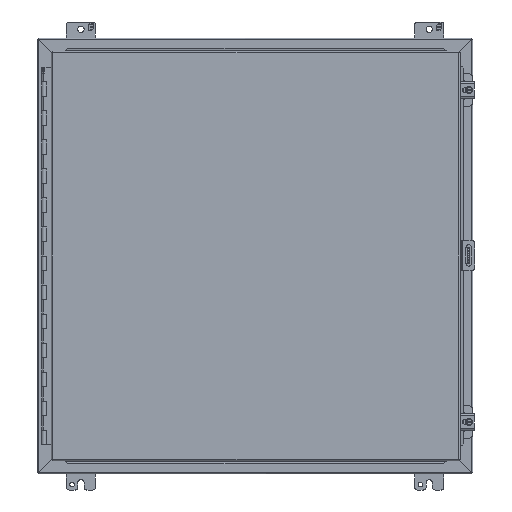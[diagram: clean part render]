
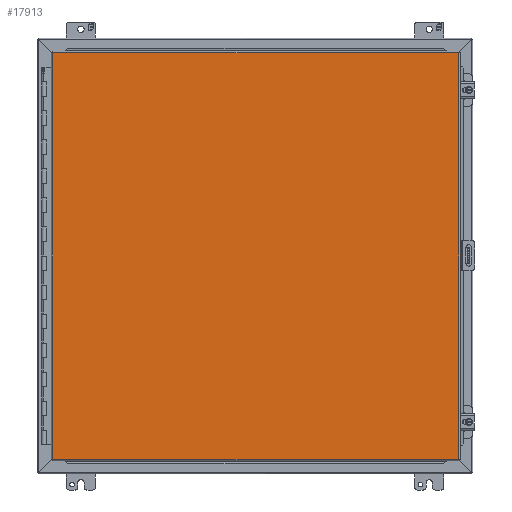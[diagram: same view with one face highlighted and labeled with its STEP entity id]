
A CAD part, front view. The second image highlights one B-rep face of the part: STEP entity #17913.
In plain terms, the highlighted planar face has unit normal (0, -1, 0).
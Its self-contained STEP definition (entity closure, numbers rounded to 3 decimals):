
#1328=LINE('',#27049,#3083);
#1329=LINE('',#27052,#3084);
#1330=LINE('',#27054,#3085);
#1331=LINE('',#27056,#3086);
#3083=VECTOR('',#21962,1000.);
#3084=VECTOR('',#21963,1000.);
#3085=VECTOR('',#21964,1000.);
#3086=VECTOR('',#21965,1000.);
#6486=ORIENTED_EDGE('',*,*,#10792,.T.);
#6487=ORIENTED_EDGE('',*,*,#10793,.T.);
#6488=ORIENTED_EDGE('',*,*,#10794,.T.);
#6489=ORIENTED_EDGE('',*,*,#10795,.T.);
#10792=EDGE_CURVE('',#13084,#13085,#1328,.T.);
#10793=EDGE_CURVE('',#13085,#13086,#1329,.T.);
#10794=EDGE_CURVE('',#13086,#13087,#1330,.T.);
#10795=EDGE_CURVE('',#13087,#13084,#1331,.T.);
#13084=VERTEX_POINT('',#27050);
#13085=VERTEX_POINT('',#27051);
#13086=VERTEX_POINT('',#27053);
#13087=VERTEX_POINT('',#27055);
#15060=EDGE_LOOP('',(#6486,#6487,#6488,#6489));
#16185=FACE_BOUND('',#15060,.T.);
#17142=PLANE('',#19287);
#17913=ADVANCED_FACE('',(#16185),#17142,.T.);
#19287=AXIS2_PLACEMENT_3D('',#27048,#21960,#21961);
#21960=DIRECTION('',(0.,-1.,0.));
#21961=DIRECTION('',(0.,0.,-1.));
#21962=DIRECTION('',(0.,0.,-1.));
#21963=DIRECTION('',(1.,0.,0.));
#21964=DIRECTION('',(0.,0.,1.));
#21965=DIRECTION('',(-1.,0.,0.));
#27048=CARTESIAN_POINT('',(-355.244,0.,-355.46));
#27049=CARTESIAN_POINT('',(-355.244,0.,355.46));
#27050=CARTESIAN_POINT('',(-355.244,0.,355.46));
#27051=CARTESIAN_POINT('',(-355.244,0.,-355.46));
#27052=CARTESIAN_POINT('',(-355.244,0.,-355.46));
#27053=CARTESIAN_POINT('',(355.244,0.,-355.46));
#27054=CARTESIAN_POINT('',(355.244,0.,-355.46));
#27055=CARTESIAN_POINT('',(355.244,0.,355.46));
#27056=CARTESIAN_POINT('',(355.244,0.,355.46));
